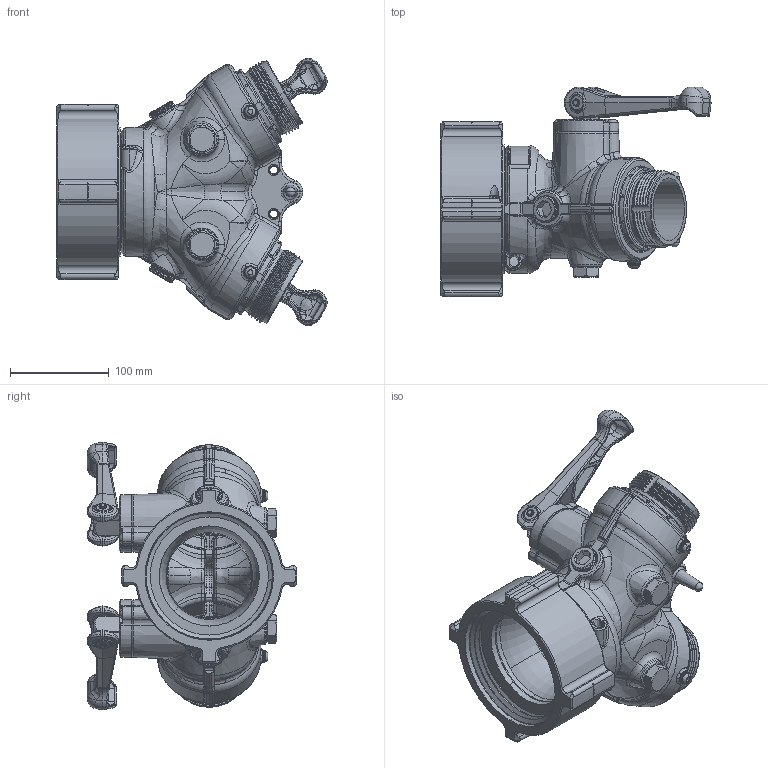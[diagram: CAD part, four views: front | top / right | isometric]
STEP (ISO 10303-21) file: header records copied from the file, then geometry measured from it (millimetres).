
FILE_DESCRIPTION (( 'STEP AP203' ), '1' );
FILE_NAME ('AY5NP-NJ.STEP', '2014-06-18T19:03:11', ( 'User' ), ( '' ), 'SwSTEP 2.0', 'SolidWorks 2014', '' );
FILE_SCHEMA (( 'CONFIG_CONTROL_DESIGN' ));
Length unit declared in the file: inch
Products named in the file (1): AY5NP-NJ
Bounding box: 274.15 x 212.76 x 271.13 mm (x, y, z)
Surface area: 356545.9 mm2 (no closed solid volume)
Topology: 0 solids, 54 shells, 2041 faces, 5652 edges, 3536 vertices
Faces by surface type: bspline 548, cylinder 476, cone 406, plane 317, torus 262, sphere 32
Entity records: 106358 total; most frequent: CARTESIAN_POINT 61162, ORIENTED_EDGE 10089, DIRECTION 8098, EDGE_CURVE 5604, VERTEX_POINT 3534, AXIS2_PLACEMENT_3D 3363, EDGE_LOOP 2121, ADVANCED_FACE 2041
